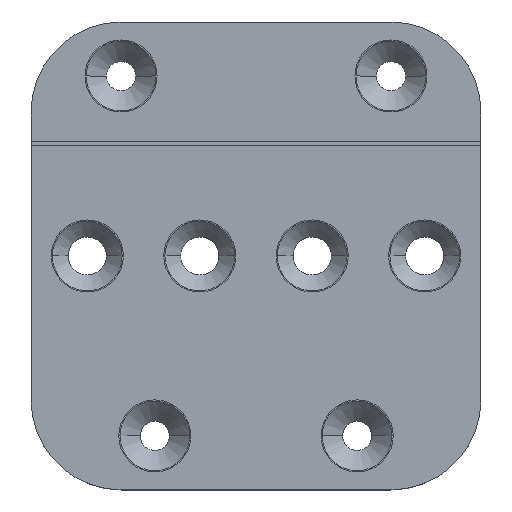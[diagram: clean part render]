
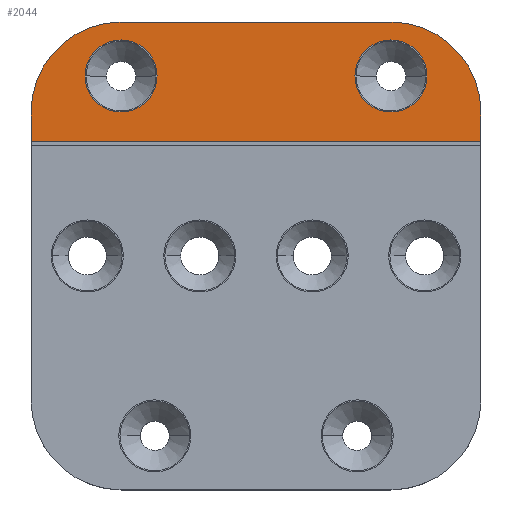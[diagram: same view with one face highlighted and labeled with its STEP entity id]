
A CAD part, top view. The second image highlights one B-rep face of the part: STEP entity #2044.
In plain terms, the highlighted planar face has unit normal (0, 0, 1).
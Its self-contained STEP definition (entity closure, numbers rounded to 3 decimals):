
#23 = ORIENTED_EDGE ( 'NONE', *, *, #237, .T. ) ;
#27 = LINE ( 'NONE', #1802, #2141 ) ;
#75 = AXIS2_PLACEMENT_3D ( 'NONE', #1167, #2089, #644 ) ;
#82 = LINE ( 'NONE', #1373, #1203 ) ;
#120 = DIRECTION ( 'NONE',  ( 0., 0., 1. ) ) ;
#145 = DIRECTION ( 'NONE',  ( 0., 0., 1. ) ) ;
#176 = LINE ( 'NONE', #1851, #1335 ) ;
#222 = DIRECTION ( 'NONE',  ( 1., 0., 0. ) ) ;
#232 = CIRCLE ( 'NONE', #1151, 8. ) ;
#237 = EDGE_CURVE ( 'NONE', #1591, #1993, #176, .T. ) ;
#245 = AXIS2_PLACEMENT_3D ( 'NONE', #1741, #1457, #1925 ) ;
#268 = VERTEX_POINT ( 'NONE', #1873 ) ;
#286 = EDGE_LOOP ( 'NONE', ( #308, #1783 ) ) ;
#294 = ORIENTED_EDGE ( 'NONE', *, *, #1790, .T. ) ;
#308 = ORIENTED_EDGE ( 'NONE', *, *, #1196, .F. ) ;
#324 = ORIENTED_EDGE ( 'NONE', *, *, #861, .T. ) ;
#368 = DIRECTION ( 'NONE',  ( 0., 0., 1. ) ) ;
#401 = CARTESIAN_POINT ( 'NONE',  ( 20., 104., 20. ) ) ;
#460 = DIRECTION ( 'NONE',  ( 1., 0., 0. ) ) ;
#509 = CIRCLE ( 'NONE', #75, 20. ) ;
#520 = DIRECTION ( 'NONE',  ( 1., 0., 0. ) ) ;
#533 = FACE_BOUND ( 'NONE', #286, .T. ) ;
#534 = EDGE_CURVE ( 'NONE', #931, #1133, #1264, .T. ) ;
#537 = CARTESIAN_POINT ( 'NONE',  ( 0., 0., 20. ) ) ;
#538 = EDGE_CURVE ( 'NONE', #1719, #931, #2042, .T. ) ;
#590 = CARTESIAN_POINT ( 'NONE',  ( 100., 84., 20. ) ) ;
#598 = VERTEX_POINT ( 'NONE', #1546 ) ;
#644 = DIRECTION ( 'NONE',  ( -1., 0., 0. ) ) ;
#707 = CARTESIAN_POINT ( 'NONE',  ( 0., 77.5, 20. ) ) ;
#711 = CARTESIAN_POINT ( 'NONE',  ( 88., 92., 20. ) ) ;
#782 = ORIENTED_EDGE ( 'NONE', *, *, #1769, .T. ) ;
#823 = VECTOR ( 'NONE', #1356, 1000. ) ;
#861 = EDGE_CURVE ( 'NONE', #598, #1719, #27, .T. ) ;
#931 = VERTEX_POINT ( 'NONE', #1789 ) ;
#1012 = CARTESIAN_POINT ( 'NONE',  ( 20., 92., 20. ) ) ;
#1121 = ORIENTED_EDGE ( 'NONE', *, *, #538, .T. ) ;
#1129 = CIRCLE ( 'NONE', #1551, 8. ) ;
#1133 = VERTEX_POINT ( 'NONE', #707 ) ;
#1151 = AXIS2_PLACEMENT_3D ( 'NONE', #1294, #120, #2100 ) ;
#1167 = CARTESIAN_POINT ( 'NONE',  ( 80., 84., 20. ) ) ;
#1196 = EDGE_CURVE ( 'NONE', #1565, #268, #1663, .T. ) ;
#1203 = VECTOR ( 'NONE', #222, 1000. ) ;
#1254 = CARTESIAN_POINT ( 'NONE',  ( 20., 92., 20. ) ) ;
#1264 = LINE ( 'NONE', #537, #823 ) ;
#1265 = EDGE_LOOP ( 'NONE', ( #324, #1121, #1313, #294, #23, #782 ) ) ;
#1294 = CARTESIAN_POINT ( 'NONE',  ( 80., 92., 20. ) ) ;
#1305 = EDGE_CURVE ( 'NONE', #1883, #1391, #1129, .T. ) ;
#1313 = ORIENTED_EDGE ( 'NONE', *, *, #534, .T. ) ;
#1317 = EDGE_CURVE ( 'NONE', #1391, #1883, #232, .T. ) ;
#1335 = VECTOR ( 'NONE', #1518, 1000. ) ;
#1348 = CARTESIAN_POINT ( 'NONE',  ( 20., 84., 20. ) ) ;
#1356 = DIRECTION ( 'NONE',  ( 0., -1., 0. ) ) ;
#1373 = CARTESIAN_POINT ( 'NONE',  ( 0., 77.5, 20. ) ) ;
#1391 = VERTEX_POINT ( 'NONE', #1950 ) ;
#1418 = AXIS2_PLACEMENT_3D ( 'NONE', #1012, #368, #520 ) ;
#1422 = AXIS2_PLACEMENT_3D ( 'NONE', #1254, #1720, #1744 ) ;
#1457 = DIRECTION ( 'NONE',  ( 0., 0., -1. ) ) ;
#1469 = ORIENTED_EDGE ( 'NONE', *, *, #1317, .F. ) ;
#1518 = DIRECTION ( 'NONE',  ( 0., 1., 0. ) ) ;
#1535 = AXIS2_PLACEMENT_3D ( 'NONE', #1348, #1886, #2045 ) ;
#1546 = CARTESIAN_POINT ( 'NONE',  ( 80., 104., 20. ) ) ;
#1551 = AXIS2_PLACEMENT_3D ( 'NONE', #1583, #145, #460 ) ;
#1560 = EDGE_CURVE ( 'NONE', #268, #1565, #1661, .T. ) ;
#1565 = VERTEX_POINT ( 'NONE', #2022 ) ;
#1568 = PLANE ( 'NONE',  #245 ) ;
#1583 = CARTESIAN_POINT ( 'NONE',  ( 80., 92., 20. ) ) ;
#1591 = VERTEX_POINT ( 'NONE', #1844 ) ;
#1661 = CIRCLE ( 'NONE', #1418, 8. ) ;
#1663 = CIRCLE ( 'NONE', #1422, 8. ) ;
#1719 = VERTEX_POINT ( 'NONE', #401 ) ;
#1720 = DIRECTION ( 'NONE',  ( 0., 0., 1. ) ) ;
#1741 = CARTESIAN_POINT ( 'NONE',  ( 0., 0., 20. ) ) ;
#1744 = DIRECTION ( 'NONE',  ( 1., 0., 0. ) ) ;
#1769 = EDGE_CURVE ( 'NONE', #1993, #598, #509, .T. ) ;
#1783 = ORIENTED_EDGE ( 'NONE', *, *, #1560, .F. ) ;
#1788 = DIRECTION ( 'NONE',  ( -1., 0., 0. ) ) ;
#1789 = CARTESIAN_POINT ( 'NONE',  ( 0., 84., 20. ) ) ;
#1790 = EDGE_CURVE ( 'NONE', #1133, #1591, #82, .T. ) ;
#1795 = FACE_BOUND ( 'NONE', #1995, .T. ) ;
#1802 = CARTESIAN_POINT ( 'NONE',  ( 0., 104., 20. ) ) ;
#1833 = ORIENTED_EDGE ( 'NONE', *, *, #1305, .F. ) ;
#1844 = CARTESIAN_POINT ( 'NONE',  ( 100., 77.5, 20. ) ) ;
#1851 = CARTESIAN_POINT ( 'NONE',  ( 100., 0., 20. ) ) ;
#1873 = CARTESIAN_POINT ( 'NONE',  ( 12., 92., 20. ) ) ;
#1883 = VERTEX_POINT ( 'NONE', #711 ) ;
#1886 = DIRECTION ( 'NONE',  ( 0., 0., 1. ) ) ;
#1925 = DIRECTION ( 'NONE',  ( -1., 0., 0. ) ) ;
#1950 = CARTESIAN_POINT ( 'NONE',  ( 72., 92., 20. ) ) ;
#1993 = VERTEX_POINT ( 'NONE', #590 ) ;
#1995 = EDGE_LOOP ( 'NONE', ( #1833, #1469 ) ) ;
#2022 = CARTESIAN_POINT ( 'NONE',  ( 28., 92., 20. ) ) ;
#2042 = CIRCLE ( 'NONE', #1535, 20. ) ;
#2044 = ADVANCED_FACE ( 'NONE', ( #533, #1795, #2137 ), #1568, .F. ) ;
#2045 = DIRECTION ( 'NONE',  ( -1., 0., 0. ) ) ;
#2089 = DIRECTION ( 'NONE',  ( 0., 0., 1. ) ) ;
#2100 = DIRECTION ( 'NONE',  ( 1., 0., 0. ) ) ;
#2137 = FACE_OUTER_BOUND ( 'NONE', #1265, .T. ) ;
#2141 = VECTOR ( 'NONE', #1788, 1000. ) ;
